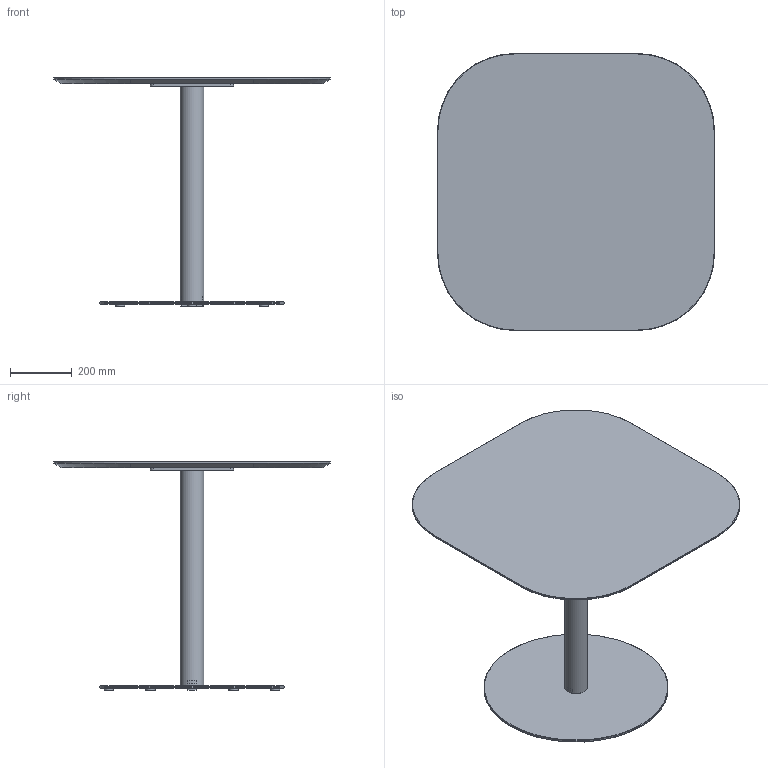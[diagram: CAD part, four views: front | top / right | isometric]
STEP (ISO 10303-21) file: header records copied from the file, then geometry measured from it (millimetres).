
FILE_DESCRIPTION( ('This file contains a STEP AP42 implementation' ,'as created by ZW3D STEP Interface translator.') ,'2;1' );
FILE_NAME( 'Henri - B_Rond - F2 - M5 - 900 x 900 x 750.stp' ,'24 912.1535 6', (''), ('ZWCAD Software Co.'), 'Version 1.0', 'ZW3D to STEP translator', '' );
FILE_SCHEMA(('AUTOMOTIVE_DESIGN { 1 0 10303 214 1 1 1 1 }'));
Length unit declared in the file: millimetre
Products named in the file (14): 0; PIED BISTROT PARAMETRIQUE_; COLONNE ACIER Ø76 V.02_; TUB-D076-02_; PLA-R76B-01_; CROIX ACIER 370 V.02_; CRX-X370-02_; SOCLE ACIER C Ø600 V.02_; SCL-D600-02_; PLA-R30A-01_; PLA-R30A-01; WUERTH 0276063020 Euro-screw 6.3x2 Verzinkt_; PLATEAU BISTROT PARAMETRIQUE_; insert_m6_13_
Assembly tree (24 placements, depth 3):
  0
  PIED BISTROT PARAMETRIQUE_
    COLONNE ACIER Ø76 V.02_
      TUB-D076-02_
      PLA-R76B-01_  x2
    CROIX ACIER 370 V.02_
      CRX-X370-02_
    SOCLE ACIER C Ø600 V.02_
      SCL-D600-02_
      PLA-R30A-01_
      PLA-R30A-01  x5
    WUERTH 0276063020 Euro-screw 6.3x2 Verzinkt_
    PLATEAU BISTROT PARAMETRIQUE_
      insert_m6_13_  x8
Bounding box: 900 x 900 x 744 mm (x, y, z)
Volume: 17727084.3 mm3; surface area: 2643258.8 mm2
Topology: 21 solids, 21 shells, 524 faces, 1273 edges, 802 vertices
Faces by surface type: plane 254, bspline 121, cylinder 99, cone 49, torus 1
Full cylindrical faces by diameter (mm): 4.88 x1, 6 x8, 6.3 x1, 8 x47, 12 x2, 14 x2, 30 x6, 72 x1, 76 x1, 600 x1
Entity records: 11734 total; most frequent: CARTESIAN_POINT 3302, ORIENTED_EDGE 1526, DIRECTION 1424, EDGE_CURVE 763, VERTEX_POINT 490, VECTOR 476, LINE 476, AXIS2_PLACEMENT_3D 474
